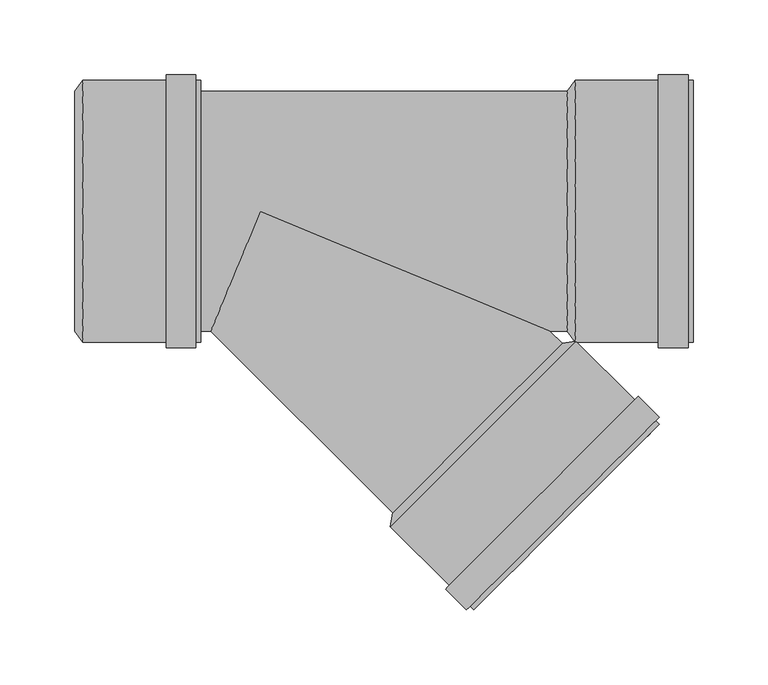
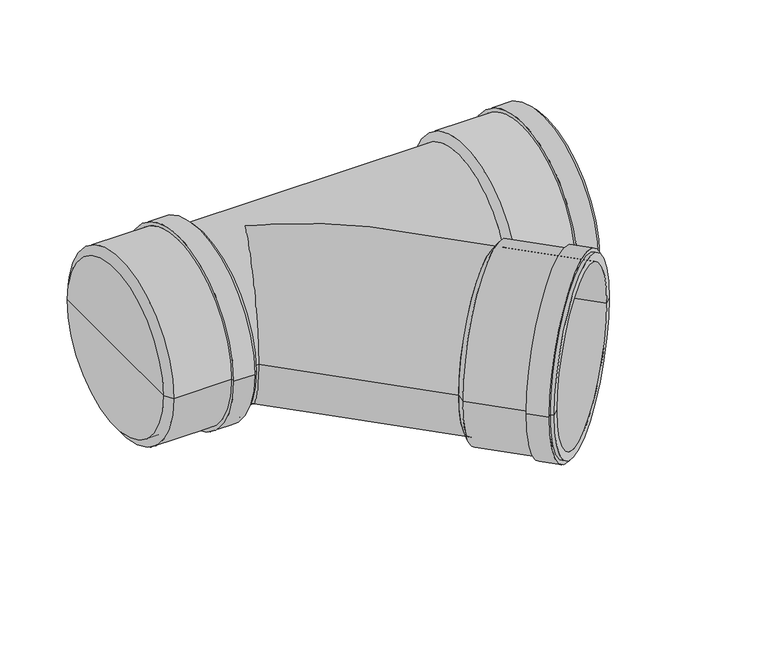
"""IFC4 building model written with IfcOpenShell, lengths in millimetres: pipe fitting geometry, pf_KGEA : pf_KGEA."""

from ifc_helpers import new_model, si_unit, frame, origin, place, context, project, spatial, polyline, circle_curve, ellipse_curve, source, transform, mapped, element, save
from ifc_brep_helpers import plane_surface, cylinder_surface, revolved_surface, advanced_brep


def pipe_fitting_43338059(model_context):
    return source(origin(), model_context, "Body", "AdvancedBrep", [
        advanced_brep(
        [(88.2469263, -201.3840113, 0.0), (201.3840113, -88.2469263, 0.0), (210.5763994, -86.6912914, 0.0), (86.6912914, -210.5763994, 0.0), (144.8154688, -144.8154688, 0.0), (142.2698844, -266.1549924, 0.0), (266.1549924, -142.2698844, 0.0), (260.7809809, -147.6438959, 0.0), (147.6438959, -260.7809809, 0.0), (139.8657213, -263.7508294, 0.0), (263.7508294, -139.8657213, 0.0), (137.4615583, -266.1549924, 0.0), (266.1549924, -137.4615583, 0.0), (123.5315547, -252.2249888, 0.0), (252.2249888, -123.5315547, 0.0), (125.9357177, -249.8208258, 0.0), (249.8208258, -125.9357177, 0.0), (92.0653029, -205.2023879, 0.0), (205.2023879, -92.0653029, 0.0), (148.6338454, -148.6338454, 0.0)],
        [
            (0, 1, circle_curve(frame((144.8154688, -144.8154688, 0.0), z_axis=(0.7071067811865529, -0.7071067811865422, 0.0), x_axis=(0.7071067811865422, 0.7071067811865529, 0.0)), 80.0)),
            (1, 2),
            (2, 3, circle_curve(frame((148.6338454, -148.6338454, 0.0), z_axis=(-0.7071067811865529, 0.7071067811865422, 0.0), x_axis=(0.7071067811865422, 0.7071067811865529, 0.0)), 87.6)),
            (3, 0),
            (1, 0, circle_curve(frame((144.8154688, -144.8154688, 0.0), z_axis=(0.7071067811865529, -0.7071067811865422, 0.0), x_axis=(0.7071067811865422, 0.7071067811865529, 0.0)), 80.0)),
            (3, 2, circle_curve(frame((148.6338454, -148.6338454, 0.0), z_axis=(-0.7071067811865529, 0.7071067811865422, 0.0), x_axis=(0.7071067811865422, 0.7071067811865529, 0.0)), 87.6)),
            (4, 1),
            (0, 4),
            (5, 6, circle_curve(frame((204.2124384, -204.2124384, 0.0), z_axis=(0.7071067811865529, -0.7071067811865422, 0.0), x_axis=(0.7071067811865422, 0.7071067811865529, 0.0)), 87.6)),
            (6, 7),
            (7, 8, circle_curve(frame((204.2124384, -204.2124384, 0.0), z_axis=(-0.7071067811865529, 0.7071067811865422, 0.0), x_axis=(0.7071067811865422, 0.7071067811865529, 0.0)), 80.0)),
            (8, 5),
            (6, 5, circle_curve(frame((204.2124384, -204.2124384, 0.0), z_axis=(0.7071067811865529, -0.7071067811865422, 0.0), x_axis=(0.7071067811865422, 0.7071067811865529, 0.0)), 87.6)),
            (8, 7, circle_curve(frame((204.2124384, -204.2124384, 0.0), z_axis=(-0.7071067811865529, 0.7071067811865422, 0.0), x_axis=(0.7071067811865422, 0.7071067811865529, 0.0)), 80.0)),
            (9, 10, circle_curve(frame((201.8082754, -201.8082754, 0.0), z_axis=(0.7071067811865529, -0.7071067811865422, 0.0), x_axis=(0.7071067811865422, 0.7071067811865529, 0.0)), 87.6)),
            (10, 6),
            (5, 9),
            (10, 9, circle_curve(frame((201.8082754, -201.8082754, 0.0), z_axis=(0.7071067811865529, -0.7071067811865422, 0.0), x_axis=(0.7071067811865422, 0.7071067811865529, 0.0)), 87.6)),
            (11, 12, circle_curve(frame((201.8082754, -201.8082754, 0.0), z_axis=(0.7071067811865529, -0.7071067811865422, 0.0), x_axis=(0.7071067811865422, 0.7071067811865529, 0.0)), 91.0)),
            (12, 10),
            (9, 11),
            (12, 11, circle_curve(frame((201.8082754, -201.8082754, 0.0), z_axis=(0.7071067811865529, -0.7071067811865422, 0.0), x_axis=(0.7071067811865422, 0.7071067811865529, 0.0)), 91.0)),
            (13, 14, circle_curve(frame((187.8782718, -187.8782718, 0.0), z_axis=(0.7071067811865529, -0.7071067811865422, 0.0), x_axis=(0.7071067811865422, 0.7071067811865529, 0.0)), 91.0)),
            (14, 12),
            (11, 13),
            (14, 13, circle_curve(frame((187.8782718, -187.8782718, 0.0), z_axis=(0.7071067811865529, -0.7071067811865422, 0.0), x_axis=(0.7071067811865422, 0.7071067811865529, 0.0)), 91.0)),
            (15, 16, circle_curve(frame((187.8782718, -187.8782718, 0.0), z_axis=(0.7071067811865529, -0.7071067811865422, 0.0), x_axis=(0.7071067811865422, 0.7071067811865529, 0.0)), 87.6)),
            (16, 14),
            (13, 15),
            (16, 15, circle_curve(frame((187.8782718, -187.8782718, 0.0), z_axis=(0.7071067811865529, -0.7071067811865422, 0.0), x_axis=(0.7071067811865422, 0.7071067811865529, 0.0)), 87.6)),
            (2, 16),
            (15, 3),
            (17, 18, circle_curve(frame((148.6338454, -148.6338454, 0.0), z_axis=(0.7071067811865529, -0.7071067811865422, 0.0), x_axis=(0.7071067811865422, 0.7071067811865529, 0.0)), 80.0)),
            (18, 19),
            (19, 17),
            (18, 17, circle_curve(frame((148.6338454, -148.6338454, 0.0), z_axis=(0.7071067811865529, -0.7071067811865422, 0.0), x_axis=(0.7071067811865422, 0.7071067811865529, 0.0)), 80.0)),
            (7, 18),
            (17, 8),
        ],
        [
            revolved_surface(polyline([(210.5763994, -86.6912914, 0.0), (201.3840113, -88.2469263, 0.0)]), (144.8154688, -144.8154688, 0.0), (-0.7071067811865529, 0.7071067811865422, 0.0)),
            plane_surface(frame((144.8154688, -144.8154688, 0.0), z_axis=(-0.7071067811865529, 0.7071067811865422, 0.0), x_axis=(0.7071067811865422, 0.7071067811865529, 0.0))),
            plane_surface(frame((204.2124384, -204.2124384, 0.0), z_axis=(0.7071067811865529, -0.7071067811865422, 0.0), x_axis=(0.7071067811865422, 0.7071067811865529, 0.0))),
            cylinder_surface(frame((144.8154688, -144.8154688, 0.0), z_axis=(-0.7071067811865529, 0.7071067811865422, 0.0), x_axis=(0.7071067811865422, 0.7071067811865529, 0.0)), 87.6),
            plane_surface(frame((201.8082754, -201.8082754, 0.0), z_axis=(0.7071067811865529, -0.7071067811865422, 0.0), x_axis=(0.7071067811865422, 0.7071067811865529, 0.0))),
            cylinder_surface(frame((144.8154688, -144.8154688, 0.0), z_axis=(-0.7071067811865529, 0.7071067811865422, 0.0), x_axis=(0.7071067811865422, 0.7071067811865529, 0.0)), 91.0),
            plane_surface(frame((187.8782718, -187.8782718, 0.0), z_axis=(-0.7071067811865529, 0.7071067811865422, 0.0), x_axis=(0.7071067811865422, 0.7071067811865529, 0.0))),
            plane_surface(frame((148.6338454, -148.6338454, 0.0), z_axis=(0.7071067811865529, -0.7071067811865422, 0.0), x_axis=(0.7071067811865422, 0.7071067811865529, 0.0))),
            revolved_surface(polyline([(205.202387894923, -92.06530290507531, 0.0), (260.78098089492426, -147.64389590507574, 0.0)]), (144.8154688, -144.8154688, 0.0), (-0.7071067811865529, 0.7071067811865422, 0.0)),
        ],
        [
            (0, [[1, 2, 3, 4]]),
            (0, [[5, -4, 6, -2]]),
            (1, [[7, -1, 8]]),
            (1, [[-8, -5, -7]]),
            (2, [[9, 10, 11, 12]]),
            (2, [[13, -12, 14, -10]]),
            (3, [[15, 16, -9, 17]]),
            (3, [[18, -17, -13, -16]]),
            (4, [[19, 20, -15, 21]]),
            (4, [[22, -21, -18, -20]]),
            (5, [[23, 24, -19, 25]]),
            (5, [[26, -25, -22, -24]]),
            (6, [[27, 28, -23, 29]]),
            (6, [[30, -29, -26, -28]]),
            (3, [[-3, 31, -27, 32]]),
            (3, [[-6, -32, -30, -31]]),
            (7, [[33, 34, 35]]),
            (7, [[36, -35, -34]]),
            (8, [[-11, 37, -33, 38]]),
            (8, [[-14, -38, -36, -37]]),
        ],
    ),
        advanced_brep(
        [(204.8, -80.0, 0.0), (204.8, 80.0, 0.0), (210.2, 87.6, 0.0), (210.2, -87.6, 0.0), (204.8, 0.0, 0.0), (288.8, -87.6, 0.0), (288.8, 87.6, 0.0), (288.8, 80.0, 0.0), (288.8, -80.0, 0.0), (285.4, -87.6, 0.0), (285.4, 87.6, 0.0), (285.4, -91.0, 0.0), (285.4, 91.0, 0.0), (265.7, -91.0, 0.0), (265.7, 91.0, 0.0), (265.7, -87.6, 0.0), (265.7, 87.6, 0.0), (210.2, -80.0, 0.0), (210.2, 80.0, 0.0), (210.2, 0.0, 0.0)],
        [
            (0, 1, circle_curve(frame((204.8, 0.0, 0.0), z_axis=(1.0, 0.0, 0.0), x_axis=(0.0, 1.0, 0.0)), 80.0)),
            (1, 2),
            (2, 3, circle_curve(frame((210.2, 0.0, 0.0), z_axis=(-1.0, 0.0, 0.0), x_axis=(0.0, 1.0, 0.0)), 87.6)),
            (3, 0),
            (1, 0, circle_curve(frame((204.8, 0.0, 0.0), z_axis=(1.0, 0.0, 0.0), x_axis=(0.0, 1.0, 0.0)), 80.0)),
            (3, 2, circle_curve(frame((210.2, 0.0, 0.0), z_axis=(-1.0, 0.0, 0.0), x_axis=(0.0, 1.0, 0.0)), 87.6)),
            (4, 1),
            (0, 4),
            (5, 6, circle_curve(frame((288.8, 0.0, 0.0), z_axis=(1.0, 0.0, 0.0), x_axis=(0.0, 1.0, 0.0)), 87.6)),
            (6, 7),
            (7, 8, circle_curve(frame((288.8, 0.0, 0.0), z_axis=(-1.0, 0.0, 0.0), x_axis=(0.0, 1.0, 0.0)), 80.0)),
            (8, 5),
            (6, 5, circle_curve(frame((288.8, 0.0, 0.0), z_axis=(1.0, 0.0, 0.0), x_axis=(0.0, 1.0, 0.0)), 87.6)),
            (8, 7, circle_curve(frame((288.8, 0.0, 0.0), z_axis=(-1.0, 0.0, 0.0), x_axis=(0.0, 1.0, 0.0)), 80.0)),
            (9, 10, circle_curve(frame((285.4, 0.0, 0.0), z_axis=(1.0, 0.0, 0.0), x_axis=(0.0, 1.0, 0.0)), 87.6)),
            (10, 6),
            (5, 9),
            (10, 9, circle_curve(frame((285.4, 0.0, 0.0), z_axis=(1.0, 0.0, 0.0), x_axis=(0.0, 1.0, 0.0)), 87.6)),
            (11, 12, circle_curve(frame((285.4, 0.0, 0.0), z_axis=(1.0, 0.0, 0.0), x_axis=(0.0, 1.0, 0.0)), 91.0)),
            (12, 10),
            (9, 11),
            (12, 11, circle_curve(frame((285.4, 0.0, 0.0), z_axis=(1.0, 0.0, 0.0), x_axis=(0.0, 1.0, 0.0)), 91.0)),
            (13, 14, circle_curve(frame((265.7, 0.0, 0.0), z_axis=(1.0, 0.0, 0.0), x_axis=(0.0, 1.0, 0.0)), 91.0)),
            (14, 12),
            (11, 13),
            (14, 13, circle_curve(frame((265.7, 0.0, 0.0), z_axis=(1.0, 0.0, 0.0), x_axis=(0.0, 1.0, 0.0)), 91.0)),
            (15, 16, circle_curve(frame((265.7, 0.0, 0.0), z_axis=(1.0, 0.0, 0.0), x_axis=(0.0, 1.0, 0.0)), 87.6)),
            (16, 14),
            (13, 15),
            (16, 15, circle_curve(frame((265.7, 0.0, 0.0), z_axis=(1.0, 0.0, 0.0), x_axis=(0.0, 1.0, 0.0)), 87.6)),
            (2, 16),
            (15, 3),
            (17, 18, circle_curve(frame((210.2, 0.0, 0.0), z_axis=(1.0, 0.0, 0.0), x_axis=(0.0, 1.0, 0.0)), 80.0)),
            (18, 19),
            (19, 17),
            (18, 17, circle_curve(frame((210.2, 0.0, 0.0), z_axis=(1.0, 0.0, 0.0), x_axis=(0.0, 1.0, 0.0)), 80.0)),
            (7, 18),
            (17, 8),
        ],
        [
            revolved_surface(polyline([(210.2, 87.6, 0.0), (204.8, 80.0, 0.0)]), (204.8, 0.0, 0.0), (-1.0, 0.0, 0.0)),
            plane_surface(frame((204.8, 0.0, 0.0), z_axis=(-1.0, 0.0, 0.0), x_axis=(0.0, 1.0, 0.0))),
            plane_surface(frame((288.8, 0.0, 0.0), z_axis=(1.0, 0.0, 0.0), x_axis=(0.0, 1.0, 0.0))),
            cylinder_surface(frame((204.8, 0.0, 0.0), z_axis=(-1.0, 0.0, 0.0), x_axis=(0.0, 1.0, 0.0)), 87.6),
            plane_surface(frame((285.4, 0.0, 0.0), z_axis=(1.0, 0.0, 0.0), x_axis=(0.0, 1.0, 0.0))),
            cylinder_surface(frame((204.8, 0.0, 0.0), z_axis=(-1.0, 0.0, 0.0), x_axis=(0.0, 1.0, 0.0)), 91.0),
            plane_surface(frame((265.7, 0.0, 0.0), z_axis=(-1.0, 0.0, 0.0), x_axis=(0.0, 1.0, 0.0))),
            plane_surface(frame((210.2, 0.0, 0.0), z_axis=(1.0, 0.0, 0.0), x_axis=(0.0, 1.0, 0.0))),
            revolved_surface(polyline([(210.2, 80.0, 0.0), (288.8, 80.0, 0.0)]), (204.8, 0.0, 0.0), (-1.0, 0.0, 0.0)),
        ],
        [
            (0, [[1, 2, 3, 4]]),
            (0, [[5, -4, 6, -2]]),
            (1, [[7, -1, 8]]),
            (1, [[-8, -5, -7]]),
            (2, [[9, 10, 11, 12]]),
            (2, [[13, -12, 14, -10]]),
            (3, [[15, 16, -9, 17]]),
            (3, [[18, -17, -13, -16]]),
            (4, [[19, 20, -15, 21]]),
            (4, [[22, -21, -18, -20]]),
            (5, [[23, 24, -19, 25]]),
            (5, [[26, -25, -22, -24]]),
            (6, [[27, 28, -23, 29]]),
            (6, [[30, -29, -26, -28]]),
            (3, [[-3, 31, -27, 32]]),
            (3, [[-6, -32, -30, -31]]),
            (7, [[33, 34, 35]]),
            (7, [[36, -35, -34]]),
            (8, [[-11, 37, -33, 38]]),
            (8, [[-14, -38, -36, -37]]),
        ],
    ),
        advanced_brep(
        [(-123.9, -80.0, 0.0), (-123.9, 80.0, 0.0), (-118.5, 87.6, 0.0), (-118.5, -87.6, 0.0), (-123.9, 0.0, 0.0), (-39.9, -87.6, 0.0), (-39.9, 87.6, 0.0), (-39.9, 80.0, 0.0), (-39.9, -80.0, 0.0), (-43.3, -87.6, 0.0), (-43.3, 87.6, 0.0), (-43.3, -91.0, 0.0), (-43.3, 91.0, 0.0), (-63.0, -91.0, 0.0), (-63.0, 91.0, 0.0), (-63.0, -87.6, 0.0), (-63.0, 87.6, 0.0), (-118.5, -80.0, 0.0), (-118.5, 80.0, 0.0), (-118.5, 0.0, 0.0)],
        [
            (0, 1, circle_curve(frame((-123.9, 0.0, 0.0), z_axis=(1.0, 0.0, 0.0), x_axis=(0.0, 1.0, 0.0)), 80.0)),
            (1, 2),
            (2, 3, circle_curve(frame((-118.5, 0.0, 0.0), z_axis=(-1.0, 0.0, 0.0), x_axis=(0.0, 1.0, 0.0)), 87.6)),
            (3, 0),
            (1, 0, circle_curve(frame((-123.9, 0.0, 0.0), z_axis=(1.0, 0.0, 0.0), x_axis=(0.0, 1.0, 0.0)), 80.0)),
            (3, 2, circle_curve(frame((-118.5, 0.0, 0.0), z_axis=(-1.0, 0.0, 0.0), x_axis=(0.0, 1.0, 0.0)), 87.6)),
            (4, 1),
            (0, 4),
            (5, 6, circle_curve(frame((-39.9, 0.0, 0.0), z_axis=(1.0, 0.0, 0.0), x_axis=(0.0, 1.0, 0.0)), 87.6)),
            (6, 7),
            (7, 8, circle_curve(frame((-39.9, 0.0, 0.0), z_axis=(-1.0, 0.0, 0.0), x_axis=(0.0, 1.0, 0.0)), 80.0)),
            (8, 5),
            (6, 5, circle_curve(frame((-39.9, 0.0, 0.0), z_axis=(1.0, 0.0, 0.0), x_axis=(0.0, 1.0, 0.0)), 87.6)),
            (8, 7, circle_curve(frame((-39.9, 0.0, 0.0), z_axis=(-1.0, 0.0, 0.0), x_axis=(0.0, 1.0, 0.0)), 80.0)),
            (9, 10, circle_curve(frame((-43.3, 0.0, 0.0), z_axis=(1.0, 0.0, 0.0), x_axis=(0.0, 1.0, 0.0)), 87.6)),
            (10, 6),
            (5, 9),
            (10, 9, circle_curve(frame((-43.3, 0.0, 0.0), z_axis=(1.0, 0.0, 0.0), x_axis=(0.0, 1.0, 0.0)), 87.6)),
            (11, 12, circle_curve(frame((-43.3, 0.0, 0.0), z_axis=(1.0, 0.0, 0.0), x_axis=(0.0, 1.0, 0.0)), 91.0)),
            (12, 10),
            (9, 11),
            (12, 11, circle_curve(frame((-43.3, 0.0, 0.0), z_axis=(1.0, 0.0, 0.0), x_axis=(0.0, 1.0, 0.0)), 91.0)),
            (13, 14, circle_curve(frame((-63.0, 0.0, 0.0), z_axis=(1.0, 0.0, 0.0), x_axis=(0.0, 1.0, 0.0)), 91.0)),
            (14, 12),
            (11, 13),
            (14, 13, circle_curve(frame((-63.0, 0.0, 0.0), z_axis=(1.0, 0.0, 0.0), x_axis=(0.0, 1.0, 0.0)), 91.0)),
            (15, 16, circle_curve(frame((-63.0, 0.0, 0.0), z_axis=(1.0, 0.0, 0.0), x_axis=(0.0, 1.0, 0.0)), 87.6)),
            (16, 14),
            (13, 15),
            (16, 15, circle_curve(frame((-63.0, 0.0, 0.0), z_axis=(1.0, 0.0, 0.0), x_axis=(0.0, 1.0, 0.0)), 87.6)),
            (2, 16),
            (15, 3),
            (17, 18, circle_curve(frame((-118.5, 0.0, 0.0), z_axis=(1.0, 0.0, 0.0), x_axis=(0.0, 1.0, 0.0)), 80.0)),
            (18, 19),
            (19, 17),
            (18, 17, circle_curve(frame((-118.5, 0.0, 0.0), z_axis=(1.0, 0.0, 0.0), x_axis=(0.0, 1.0, 0.0)), 80.0)),
            (7, 18),
            (17, 8),
        ],
        [
            revolved_surface(polyline([(-118.5, 87.6, 0.0), (-123.9, 80.0, 0.0)]), (-123.9, 0.0, 0.0), (-1.0, 0.0, 0.0)),
            plane_surface(frame((-123.9, 0.0, 0.0), z_axis=(-1.0, 0.0, 0.0), x_axis=(0.0, 1.0, 0.0))),
            plane_surface(frame((-39.9, 0.0, 0.0), z_axis=(1.0, 0.0, 0.0), x_axis=(0.0, 1.0, 0.0))),
            cylinder_surface(frame((-123.9, 0.0, 0.0), z_axis=(-1.0, 0.0, 0.0), x_axis=(0.0, 1.0, 0.0)), 87.6),
            plane_surface(frame((-43.3, 0.0, 0.0), z_axis=(1.0, 0.0, 0.0), x_axis=(0.0, 1.0, 0.0))),
            cylinder_surface(frame((-123.9, 0.0, 0.0), z_axis=(-1.0, 0.0, 0.0), x_axis=(0.0, 1.0, 0.0)), 91.0),
            plane_surface(frame((-63.0, 0.0, 0.0), z_axis=(-1.0, 0.0, 0.0), x_axis=(0.0, 1.0, 0.0))),
            plane_surface(frame((-118.5, 0.0, 0.0), z_axis=(1.0, 0.0, 0.0), x_axis=(0.0, 1.0, 0.0))),
            revolved_surface(polyline([(-118.5, 80.0, 0.0), (-39.900000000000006, 80.0, 0.0)]), (-123.9, 0.0, 0.0), (-1.0, 0.0, 0.0)),
        ],
        [
            (0, [[1, 2, 3, 4]]),
            (0, [[5, -4, 6, -2]]),
            (1, [[7, -1, 8]]),
            (1, [[-8, -5, -7]]),
            (2, [[9, 10, 11, 12]]),
            (2, [[13, -12, 14, -10]]),
            (3, [[15, 16, -9, 17]]),
            (3, [[18, -17, -13, -16]]),
            (4, [[19, 20, -15, 21]]),
            (4, [[22, -21, -18, -20]]),
            (5, [[23, 24, -19, 25]]),
            (5, [[26, -25, -22, -24]]),
            (6, [[27, 28, -23, 29]]),
            (6, [[30, -29, -26, -28]]),
            (3, [[-3, 31, -27, 32]]),
            (3, [[-6, -32, -30, -31]]),
            (7, [[33, 34, 35]]),
            (7, [[36, -35, -34]]),
            (8, [[-11, 37, -33, 38]]),
            (8, [[-14, -38, -36, -37]]),
        ],
    ),
        advanced_brep(
        [(-118.5, -80.0, 0.0), (-118.5, 80.0, 0.0), (204.8, -80.0, 0.0), (204.8, 80.0, 0.0), (-33.137085, -80.0, 0.0), (0.0, 0.0, 80.0), (193.137085, -80.0, 0.0), (0.0, 0.0, -80.0), (88.2469263, -201.3840113, 0.0), (201.3840113, -88.2469263, 0.0)],
        [
            (0, 1, circle_curve(frame((-118.5, 0.0, 0.0), z_axis=(-1.0, 0.0, 0.0), x_axis=(0.0, 1.0, 0.0)), 80.0)),
            (1, 0, circle_curve(frame((-118.5, 0.0, 0.0), z_axis=(-1.0, 0.0, 0.0), x_axis=(0.0, 1.0, 0.0)), 80.0)),
            (2, 3, circle_curve(frame((204.8, 0.0, 0.0), z_axis=(1.0, 0.0, 0.0), x_axis=(0.0, 1.0, 0.0)), 80.0)),
            (3, 2, circle_curve(frame((204.8, 0.0, 0.0), z_axis=(1.0, 0.0, 0.0), x_axis=(0.0, 1.0, 0.0)), 80.0)),
            (0, 4),
            (4, 5, ellipse_curve(frame((0.0, 0.0, 0.0), z_axis=(-0.923879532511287, 0.38268343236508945, 0.0), x_axis=(-0.38268343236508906, -0.9238795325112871, 0.0)), 86.591376, 80.0)),
            (5, 6, ellipse_curve(frame((0.0, 0.0, 0.0), z_axis=(0.3826834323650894, 0.9238795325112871, 0.0), x_axis=(-0.923879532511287, 0.38268343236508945, 0.0)), 209.0500744, 80.0)),
            (6, 2),
            (3, 1),
            (6, 7, ellipse_curve(frame((0.0, 0.0, 0.0), z_axis=(0.3826834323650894, 0.9238795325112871, 0.0), x_axis=(-0.923879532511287, 0.38268343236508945, 0.0)), 209.0500744, 80.0)),
            (7, 4, ellipse_curve(frame((0.0, 0.0, 0.0), z_axis=(-0.923879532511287, 0.38268343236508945, 0.0), x_axis=(-0.38268343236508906, -0.9238795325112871, 0.0)), 86.591376, 80.0)),
            (8, 9, circle_curve(frame((144.8154688, -144.8154688, 0.0), z_axis=(0.7071067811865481, -0.707106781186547, 0.0), x_axis=(0.707106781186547, 0.7071067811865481, 0.0)), 80.0)),
            (9, 8, circle_curve(frame((144.8154688, -144.8154688, 0.0), z_axis=(0.7071067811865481, -0.707106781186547, 0.0), x_axis=(0.707106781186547, 0.7071067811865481, 0.0)), 80.0)),
            (9, 6),
            (4, 8),
        ],
        [
            plane_surface(frame((-118.5, 0.0, 0.0), z_axis=(-1.0, 0.0, 0.0), x_axis=(0.0, 0.0, 1.0))),
            plane_surface(frame((204.8, 0.0, 0.0), z_axis=(1.0, 0.0, 0.0), x_axis=(0.0, 0.0, 1.0))),
            cylinder_surface(frame((-118.5, 0.0, 0.0), z_axis=(-1.0, 0.0, 0.0), x_axis=(0.0, 1.0, 0.0)), 80.0),
            plane_surface(frame((144.8154688, -144.8154688, 0.0), z_axis=(0.7071067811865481, -0.707106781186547, 0.0), x_axis=(0.0, 0.0, 1.0))),
            cylinder_surface(frame((0.0, 0.0, 0.0), z_axis=(-0.7071067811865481, 0.707106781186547, 0.0), x_axis=(0.707106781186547, 0.7071067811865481, 0.0)), 80.0),
        ],
        [
            (0, [[1, 2]]),
            (1, [[3, 4]]),
            (2, [[-1, 5, 6, 7, 8, -4, 9]]),
            (2, [[-2, -9, -3, -8, 10, 11, -5]]),
            (3, [[12, 13]]),
            (4, [[-13, 14, -7, -6, 15]]),
            (4, [[-12, -15, -11, -10, -14]]),
        ],
    ),
    ])


if __name__ == "__main__":
    model = new_model("IFC4")
    model_context = context("Model", 3, world=origin())
    ifc_project = project(units=[si_unit("LENGTHUNIT", "METRE", prefix="MILLI")], contexts=[model_context])
    site = spatial("IfcSite", under=ifc_project)
    building = spatial("IfcBuilding", under=site)
    placement = place(None, origin())
    pipe_fitting_shape = pipe_fitting_43338059(model_context)
    element("IfcPipeFitting", 1, ObjectType="pf_KGEA : pf_KGEA", at=placement, inside=building, context=model_context, shape_type="MappedRepresentation", body=[
        mapped(pipe_fitting_shape, transform((0.0, 0.0, 0.0), x_axis=(1.0, 0.0, 0.0), y_axis=(0.0, 1.0, 0.0), z_axis=(0.0, 0.0, 1.0))),
    ])
    save(model, "model.ifc")
